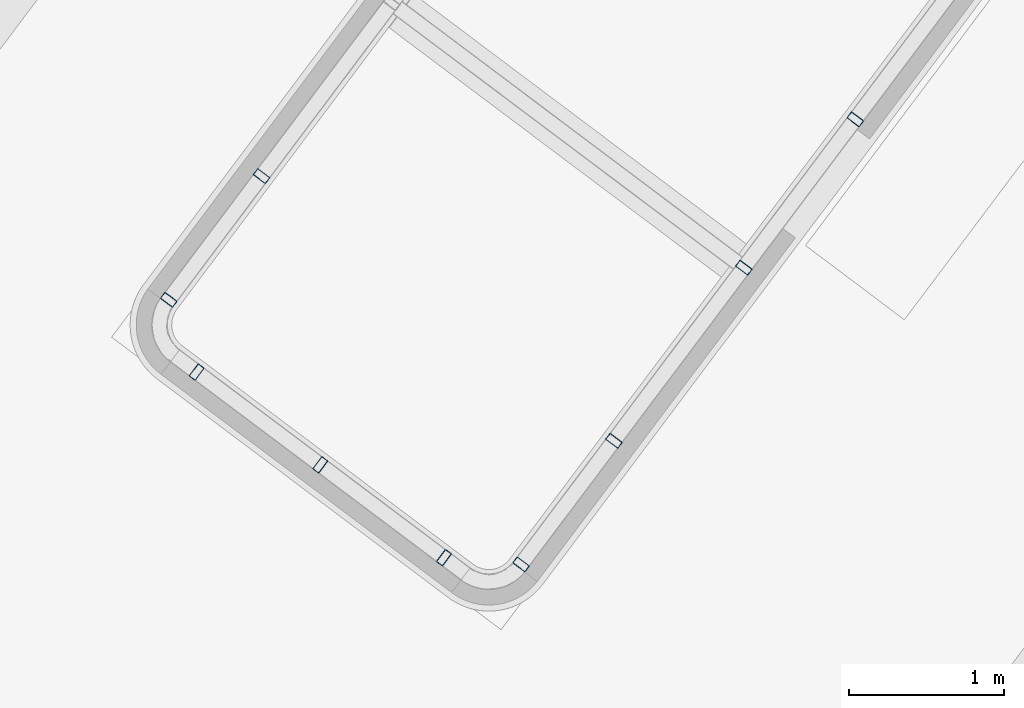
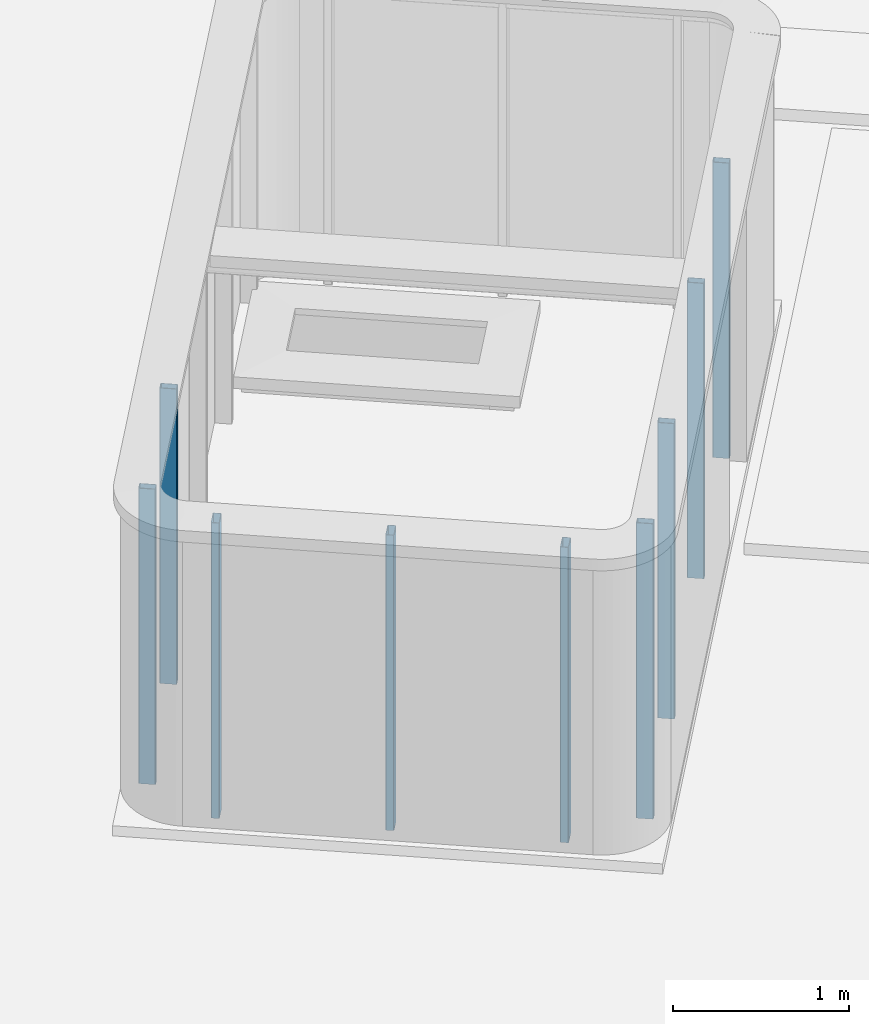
# One storey, part 10 of 28: 9 columns.
"""IFC2X3 building model written with IfcOpenShell, lengths in metres."""

from ifc_helpers import new_model, entity, si_unit, converted_unit, derived_unit, direction, frame, frame_2d, origin, place, context, subcontext, project, spatial, polyline, circle_curve, parameter, trimmed, segment, composite_curve, outline, extrude, source, transform, mapped, material, type_object, type_shapes, element, save


model = new_model("IFC2X3")

# Units and contexts
model_context = context("Model", 3, precision=1e-05, world=origin(), true_north=direction((6.123031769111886e-17, 1.0)))
body_context = subcontext(model_context, "Body", "Model", "MODEL_VIEW")
ifc_project = project(units=[si_unit("LENGTHUNIT", "METRE"), si_unit("AREAUNIT", "SQUARE_METRE"), si_unit("VOLUMEUNIT", "CUBIC_METRE"), converted_unit("PLANEANGLEUNIT", "DEGREE", entity("IfcRatioMeasure", 0.017453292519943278), si_unit("PLANEANGLEUNIT", "RADIAN"), dimensions=[0, 0, 0, 0, 0, 0, 0]), si_unit("MASSUNIT", "GRAM", prefix="KILO"), derived_unit("MASSDENSITYUNIT", [(si_unit("MASSUNIT", "GRAM", prefix="KILO"), 1), (si_unit("LENGTHUNIT", "METRE"), -3)]), derived_unit("IONCONCENTRATIONUNIT", [(si_unit("MASSUNIT", "GRAM", prefix="KILO"), 1), (si_unit("LENGTHUNIT", "METRE"), -3)]), derived_unit("MOMENTOFINERTIAUNIT", [(si_unit("LENGTHUNIT", "METRE"), 4)]), si_unit("TIMEUNIT", "SECOND"), si_unit("FREQUENCYUNIT", "HERTZ"), si_unit("THERMODYNAMICTEMPERATUREUNIT", "DEGREE_CELSIUS"), derived_unit("THERMALTRANSMITTANCEUNIT", [(si_unit("MASSUNIT", "GRAM", prefix="KILO"), 1), (si_unit("THERMODYNAMICTEMPERATUREUNIT", "KELVIN"), -1), (si_unit("TIMEUNIT", "SECOND"), -3)]), derived_unit("THERMALCONDUCTANCEUNIT", [(si_unit("MASSUNIT", "GRAM", prefix="KILO"), 1), (si_unit("THERMODYNAMICTEMPERATUREUNIT", "KELVIN"), -1), (si_unit("TIMEUNIT", "SECOND"), -3), (si_unit("LENGTHUNIT", "METRE"), 1)]), derived_unit("VOLUMETRICFLOWRATEUNIT", [(si_unit("LENGTHUNIT", "METRE"), 3), (si_unit("TIMEUNIT", "SECOND"), -1)]), derived_unit("MASSFLOWRATEUNIT", [(si_unit("MASSUNIT", "GRAM", prefix="KILO"), 1), (si_unit("TIMEUNIT", "SECOND"), -1)]), derived_unit("ROTATIONALFREQUENCYUNIT", [(si_unit("TIMEUNIT", "SECOND"), -1)]), si_unit("ELECTRICCURRENTUNIT", "AMPERE"), si_unit("ELECTRICVOLTAGEUNIT", "VOLT"), si_unit("POWERUNIT", "WATT"), si_unit("FORCEUNIT", "NEWTON", prefix="KILO"), si_unit("ILLUMINANCEUNIT", "LUX"), si_unit("LUMINOUSFLUXUNIT", "LUMEN"), si_unit("LUMINOUSINTENSITYUNIT", "CANDELA"), derived_unit("USERDEFINED", [(si_unit("MASSUNIT", "GRAM", prefix="KILO"), -1), (si_unit("LENGTHUNIT", "METRE"), -2), (si_unit("TIMEUNIT", "SECOND"), 3), (si_unit("LUMINOUSFLUXUNIT", "LUMEN"), 1)]), derived_unit("USERDEFINED", [(si_unit("MASSUNIT", "GRAM", prefix="KILO"), 1), (si_unit("TIMEUNIT", "SECOND"), -3), (si_unit("LENGTHUNIT", "METRE"), 3), (si_unit("ELECTRICCURRENTUNIT", "AMPERE"), -2)]), derived_unit("SOUNDPOWERUNIT", [(si_unit("MASSUNIT", "GRAM", prefix="KILO"), 1), (si_unit("TIMEUNIT", "SECOND"), -3), (si_unit("LENGTHUNIT", "METRE"), 2)]), derived_unit("SOUNDPRESSUREUNIT", [(si_unit("MASSUNIT", "GRAM", prefix="KILO"), 1), (si_unit("LENGTHUNIT", "METRE"), -1), (si_unit("TIMEUNIT", "SECOND"), -2)]), derived_unit("LINEARVELOCITYUNIT", [(si_unit("LENGTHUNIT", "METRE"), 1), (si_unit("TIMEUNIT", "SECOND"), -1)]), si_unit("PRESSUREUNIT", "PASCAL"), derived_unit("USERDEFINED", [(si_unit("MASSUNIT", "GRAM", prefix="KILO"), 1), (si_unit("LENGTHUNIT", "METRE"), -2), (si_unit("TIMEUNIT", "SECOND"), -2)]), derived_unit("LINEARFORCEUNIT", [(si_unit("MASSUNIT", "GRAM", prefix="KILO"), 1), (si_unit("TIMEUNIT", "SECOND"), -2)]), derived_unit("PLANARFORCEUNIT", [(si_unit("MASSUNIT", "GRAM", prefix="KILO"), 1), (si_unit("LENGTHUNIT", "METRE"), -1), (si_unit("TIMEUNIT", "SECOND"), -2)]), derived_unit("SPECIFICHEATCAPACITYUNIT", [(si_unit("THERMODYNAMICTEMPERATUREUNIT", "KELVIN"), -1), (si_unit("LENGTHUNIT", "METRE"), 2), (si_unit("TIMEUNIT", "SECOND"), -2)]), derived_unit("HEATINGVALUEUNIT", [(si_unit("LENGTHUNIT", "METRE"), 2), (si_unit("TIMEUNIT", "SECOND"), -2)]), derived_unit("VAPORPERMEABILITYUNIT", [(si_unit("LENGTHUNIT", "METRE"), -1), (si_unit("TIMEUNIT", "SECOND"), 1)]), derived_unit("DYNAMICVISCOSITYUNIT", [(si_unit("MASSUNIT", "GRAM", prefix="KILO"), 1), (si_unit("TIMEUNIT", "SECOND"), -1), (si_unit("LENGTHUNIT", "METRE"), -1)]), derived_unit("THERMALEXPANSIONCOEFFICIENTUNIT", [(si_unit("THERMODYNAMICTEMPERATUREUNIT", "KELVIN"), -1)]), derived_unit("MODULUSOFELASTICITYUNIT", [(si_unit("MASSUNIT", "GRAM", prefix="KILO"), 1), (si_unit("LENGTHUNIT", "METRE"), -1), (si_unit("TIMEUNIT", "SECOND"), -2)]), derived_unit("ISOTHERMALMOISTURECAPACITYUNIT", [(si_unit("LENGTHUNIT", "METRE"), 3), (si_unit("MASSUNIT", "GRAM", prefix="KILO"), -1)]), derived_unit("MOISTUREDIFFUSIVITYUNIT", [(si_unit("TIMEUNIT", "SECOND"), -1), (si_unit("LENGTHUNIT", "METRE"), 2)])], contexts=[model_context])

# Site, building, storey
site_placement = place(None, frame((0.0, 0.0, 235.0), z_axis=(0.0, 0.0, 1.0), x_axis=(-0.7996477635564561, 0.6004693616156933, 0.0)))
site = spatial("IfcSite", under=ifc_project, at=site_placement, Name="Default", CompositionType="ELEMENT")
building_placement = place(site_placement, origin())
building = spatial("IfcBuilding", under=site, at=building_placement, CompositionType="ELEMENT")
storey_placement = place(building_placement, frame((0.0, 0.0, 3.400000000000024)))
storey = spatial("IfcBuildingStorey", under=building, at=storey_placement, Name="PC- Coberta STR", CompositionType="ELEMENT", Elevation=3.400000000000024)

# Columns
ifc_material = material(Name="Metal - Acero - 345 MPa")
column_type = type_object("IfcColumnType", Name="STR- P- Acer- RHS- Rectangular- T1:100 x 50RHS", PredefinedType="COLUMN", material=ifc_material)
shared_shape = source(origin(), body_context, "Body", "SweptSolid", [
    extrude(outline(composite_curve([segment(polyline([(-0.01900000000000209, -0.04999999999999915), (0.019000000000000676, -0.04999999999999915)]), True, "CONTINUOUS"), segment(trimmed(circle_curve(frame_2d((0.019000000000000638, -0.04400000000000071), x_axis=(-1.0, 0.0)), 0.005999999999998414), [parameter(90.00000000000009)], [parameter(180.0000000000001)], True, "PARAMETER"), True, "CONTINUOUS"), segment(polyline([(0.024999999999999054, -0.044000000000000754), (0.02499999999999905, 0.044000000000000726)]), True, "CONTINUOUS"), segment(trimmed(circle_curve(frame_2d((0.018999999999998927, 0.044000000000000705), x_axis=(-1.0, 0.0)), 0.006000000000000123), [parameter(179.9999999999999)], [parameter(269.99999999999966)], True, "PARAMETER"), True, "CONTINUOUS"), segment(polyline([(0.018999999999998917, 0.05000000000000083), (-0.01899999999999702, 0.050000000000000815)]), True, "CONTINUOUS"), segment(trimmed(circle_curve(frame_2d((-0.018999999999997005, 0.043999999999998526), x_axis=(-1.0, 0.0)), 0.006000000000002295), [parameter(269.99999999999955)], [parameter(359.9999999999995)], True, "PARAMETER"), True, "CONTINUOUS"), segment(polyline([(-0.024999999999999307, 0.04399999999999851), (-0.024999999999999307, -0.04400000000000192)]), True, "CONTINUOUS"), segment(trimmed(circle_curve(frame_2d((-0.019000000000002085, -0.04400000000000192), x_axis=(-1.0, 0.0)), 0.005999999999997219), [parameter(359.9999999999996)], [parameter(89.99999999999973)], True, "PARAMETER"), True, "CONTINUOUS")], self_intersect=False), holes=[composite_curve([segment(trimmed(circle_curve(frame_2d((-0.019000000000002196, -0.044000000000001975), x_axis=(-1.0, 0.0)), 0.0029999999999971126), [parameter(0.0)], [parameter(90.00000000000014)], True, "PARAMETER"), False, "CONTINUOUS"), segment(polyline([(-0.021999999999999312, -0.044000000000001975), (-0.021999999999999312, 0.04400000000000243)]), True, "CONTINUOUS"), segment(trimmed(circle_curve(frame_2d((-0.019000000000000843, 0.04400000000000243), x_axis=(-1.0, 0.0)), 0.00299999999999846), [parameter(269.99999999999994)], [parameter(0.0)], True, "PARAMETER"), False, "CONTINUOUS"), segment(polyline([(-0.01900000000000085, 0.0470000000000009), (0.01899999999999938, 0.04700000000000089)]), True, "CONTINUOUS"), segment(trimmed(circle_curve(frame_2d((0.018999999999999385, 0.04399999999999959), x_axis=(-1.0, 0.0)), 0.0030000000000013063), [parameter(179.99999999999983)], [parameter(270.0)], True, "PARAMETER"), False, "CONTINUOUS"), segment(polyline([(0.022000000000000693, 0.04399999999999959), (0.022000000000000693, -0.04399999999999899)]), True, "CONTINUOUS"), segment(trimmed(circle_curve(frame_2d((0.019000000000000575, -0.043999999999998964), x_axis=(-1.0, 0.0)), 0.0030000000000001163), [parameter(90.00000000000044)], [parameter(180.0000000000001)], True, "PARAMETER"), False, "CONTINUOUS"), segment(polyline([(0.019000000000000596, -0.04699999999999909), (-0.019000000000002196, -0.04699999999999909)]), True, "CONTINUOUS")], self_intersect=False)]), frame((0.02658749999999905, 0.051587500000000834, 0.0), z_axis=(0.0, 0.0, 1.0), x_axis=(-1.0, 0.0, 0.0)), (0.0, 0.0, 1.0), 2.05),
])
type_shapes(column_type, [shared_shape])
for number, where, z_axis, x_axis, name in (
    (1, (72.50859795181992, -33.45360425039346, 0.4), (0.0, 0.0, 1.0), (0.0, -1.0, 0.0), "STR- P- Acer- RHS- Rectangular- T1:100 x 50RHS"),
    (2, (72.16177293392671, -32.163604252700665, 0.4), (0.0, 0.0, 1.0), (-1.0, 0.0, 0.0), "STR- P- Acer- RHS- Rectangular- T1:100 x 50RHS"),
    (3, (71.16177293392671, -32.16360425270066, 0.4), (0.0, 0.0, 1.0), (-1.0, 0.0, 0.0), "STR- P- Acer- RHS- Rectangular- T1:100 x 50RHS"),
    (4, (70.16177293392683, -32.16360425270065, 0.4), (0.0, 0.0, 1.0), (-1.0, 0.0, 0.0), "STR- P- Acer- RHS- Rectangular- T1:100 x 50RHS"),
    (5, (72.50859795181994, -32.45360425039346, 0.4), (0.0, 0.0, 1.0), (0.0, -1.0, 0.0), "STR- P- Acer- RHS- Rectangular- T1:100 x 50RHS"),
    (6, (69.65859787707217, -33.45360425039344, 0.4), (0.0, 0.0, 1.0), (0.0, -1.0, 0.0), "STR- P- Acer- RHS- Rectangular- T1:100 x 50RHS"),
    (7, (69.65859787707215, -34.853604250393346, 0.4), (0.0, 0.0, 1.0), (0.0, -1.0, 0.0), "STR- P- Acer- RHS- Rectangular- T1:100 x 50RHS"),
    (8, (69.65859787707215, -36.05360425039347, 0.4), (0.0, 0.0, 1.0), (0.0, -1.0, 0.0), "STR- P- Acer- RHS- Rectangular- T1:100 x 50RHS"),
    (9, (69.6585978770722, -32.45360425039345, 0.4), (0.0, 0.0, 1.0), (0.0, -1.0, 0.0), "STR- P- Acer- RHS- Rectangular- T1:100 x 50RHS"),
):
    element("IfcColumn", number, at=place(storey_placement, frame(where, z_axis=z_axis, x_axis=x_axis)), inside=storey, type_object=column_type, material=ifc_material, Name=name, ObjectType="STR- P- Acer- RHS- Rectangular- T1:100 x 50RHS", context=body_context, shape_type="MappedRepresentation", body=[
        mapped(shared_shape, transform((0.0, 0.0, 0.0), scale=1.0)),
    ])

save(model, "model.ifc")
